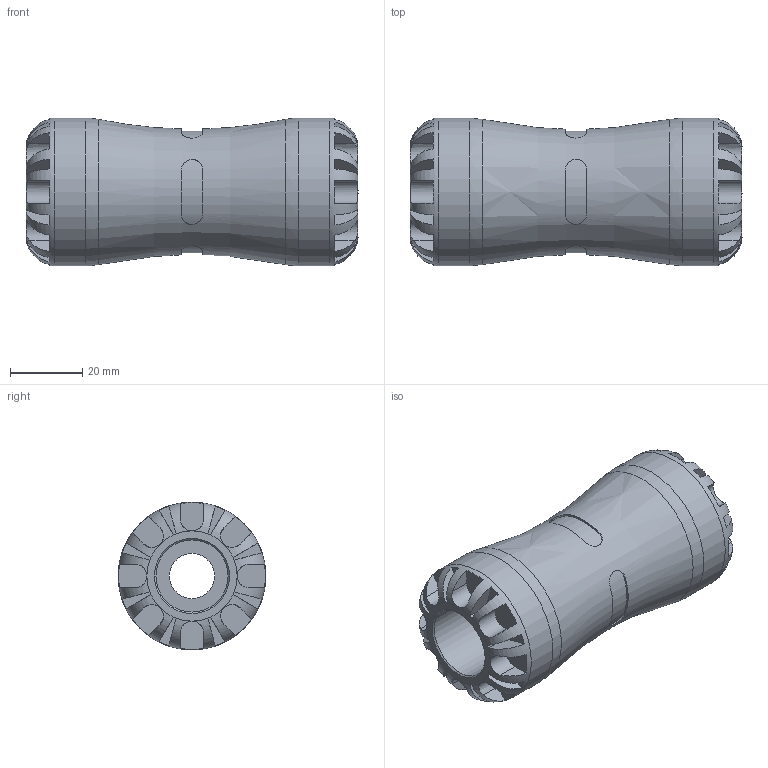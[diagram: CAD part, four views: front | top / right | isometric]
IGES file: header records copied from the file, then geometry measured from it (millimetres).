
Global section: file name: 1001C0020015_1901C0020015.ipt; native system: Autodesk Inventor 2015; preprocessor: unknown; author: KIM; date: 20170122.100455; units: millimetre
Bounding box: 92 x 41 x 41 mm (x, y, z)
Volume: 77488.9 mm3; surface area: 20102.8 mm2
Topology: 1 solids, 1 shells, 164 faces, 427 edges, 270 vertices
Faces by surface type: plane 108, revolution 34, cylinder 22
Full cylindrical faces by diameter (mm): 41 x2
